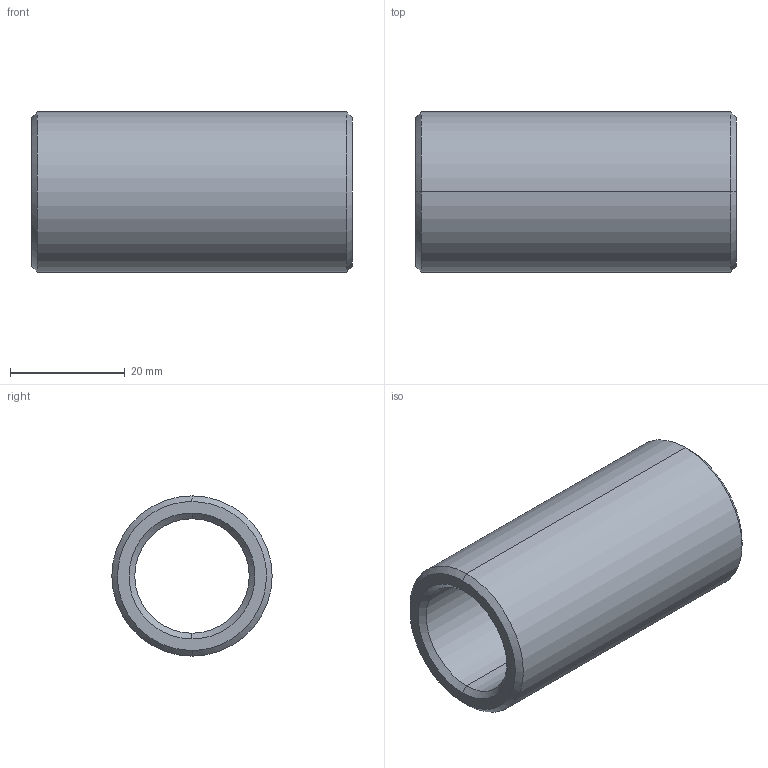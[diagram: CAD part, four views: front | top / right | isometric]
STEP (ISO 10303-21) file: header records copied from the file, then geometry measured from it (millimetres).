
FILE_DESCRIPTION(('CATIA V5 STEP Exchange'),'2;1');
FILE_NAME('C:\Users\Utente\Desktop\IO LAVORO\3D X SITO CF\X SITO\PLASTICA\352\352-20X56.stp','2021-04-12T15:21:22+00:00',('none'),('none'),'CATIA Version 5 Release 20 GA (IN-10)','CATIA V5 STEP AP203','none');
FILE_SCHEMA(('CONFIG_CONTROL_DESIGN'));
Length unit declared in the file: millimetre
Products named in the file (1): 352-20X56
Bounding box: 56 x 28 x 28 mm (x, y, z)
Volume: 16757.1 mm3; surface area: 8880.1 mm2
Topology: 1 solids, 1 shells, 14 faces, 44 edges, 32 vertices
Faces by surface type: cone 6, cylinder 4, plane 2, torus 2
Entity records: 634 total; most frequent: CARTESIAN_POINT 203, ORIENTED_EDGE 88, DIRECTION 64, EDGE_CURVE 44, AXIS2_PLACEMENT_3D 41, VERTEX_POINT 32, CIRCLE 26, EDGE_LOOP 16
